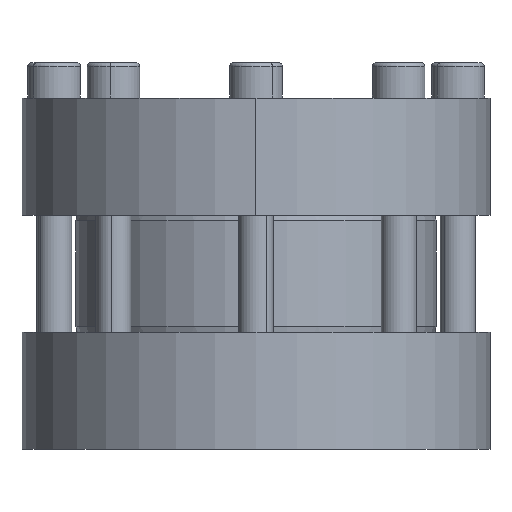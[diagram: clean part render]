
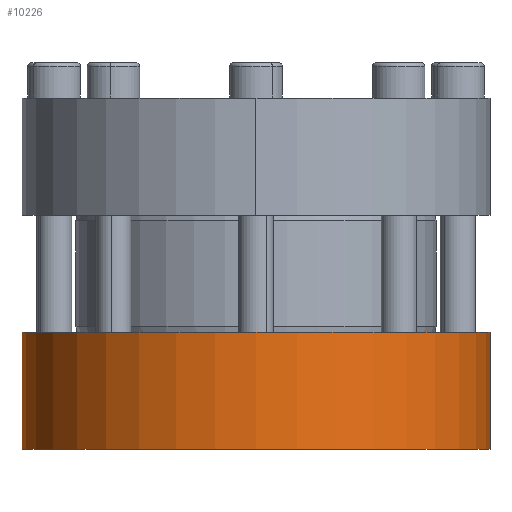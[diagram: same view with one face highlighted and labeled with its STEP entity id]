
A CAD part, front view. The second image highlights one B-rep face of the part: STEP entity #10226.
In plain terms, the highlighted cylindrical face has radius 80 mm (diameter 160 mm), a partial arc.
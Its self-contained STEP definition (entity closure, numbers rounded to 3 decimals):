
#540 = CARTESIAN_POINT ( 'NONE',  ( 0., 0., 37.998 ) ) ;
#685 = AXIS2_PLACEMENT_3D ( 'NONE', #1084, #7491, #1989 ) ;
#701 = EDGE_CURVE ( 'NONE', #9383, #7792, #3120, .T. ) ;
#809 = CYLINDRICAL_SURFACE ( 'NONE', #1216, 80. ) ;
#1084 = CARTESIAN_POINT ( 'NONE',  ( 0., 0., -2.002 ) ) ;
#1216 = AXIS2_PLACEMENT_3D ( 'NONE', #3087, #4916, #9578 ) ;
#1459 = DIRECTION ( 'NONE',  ( 1., 0., 0. ) ) ;
#1989 = DIRECTION ( 'NONE',  ( 1., 0., 0. ) ) ;
#2095 = LINE ( 'NONE', #7934, #6992 ) ;
#2154 = AXIS2_PLACEMENT_3D ( 'NONE', #540, #6945, #1459 ) ;
#2437 = DIRECTION ( 'NONE',  ( 0., 0., -1. ) ) ;
#2982 = EDGE_LOOP ( 'NONE', ( #9256, #11071, #3917, #11408 ) ) ;
#3087 = CARTESIAN_POINT ( 'NONE',  ( 0., 0., 37.998 ) ) ;
#3120 = LINE ( 'NONE', #9819, #9901 ) ;
#3196 = VERTEX_POINT ( 'NONE', #11033 ) ;
#3675 = EDGE_CURVE ( 'NONE', #9685, #3196, #2095, .T. ) ;
#3917 = ORIENTED_EDGE ( 'NONE', *, *, #3675, .T. ) ;
#4066 = FACE_OUTER_BOUND ( 'NONE', #2982, .T. ) ;
#4644 = CIRCLE ( 'NONE', #685, 80. ) ;
#4916 = DIRECTION ( 'NONE',  ( 0., 0., -1. ) ) ;
#5438 = EDGE_CURVE ( 'NONE', #3196, #7792, #4644, .T. ) ;
#5980 = CARTESIAN_POINT ( 'NONE',  ( 80., 0., 37.998 ) ) ;
#6945 = DIRECTION ( 'NONE',  ( 0., 0., 1. ) ) ;
#6992 = VECTOR ( 'NONE', #2437, 1000. ) ;
#7491 = DIRECTION ( 'NONE',  ( 0., 0., 1. ) ) ;
#7792 = VERTEX_POINT ( 'NONE', #11295 ) ;
#7934 = CARTESIAN_POINT ( 'NONE',  ( -80., 0., 37.998 ) ) ;
#8895 = DIRECTION ( 'NONE',  ( 0., 0., -1. ) ) ;
#9256 = ORIENTED_EDGE ( 'NONE', *, *, #701, .F. ) ;
#9383 = VERTEX_POINT ( 'NONE', #5980 ) ;
#9578 = DIRECTION ( 'NONE',  ( -1., 0., 0. ) ) ;
#9685 = VERTEX_POINT ( 'NONE', #11882 ) ;
#9819 = CARTESIAN_POINT ( 'NONE',  ( 80., 0., 37.998 ) ) ;
#9901 = VECTOR ( 'NONE', #8895, 1000. ) ;
#10101 = CIRCLE ( 'NONE', #2154, 80. ) ;
#10226 = ADVANCED_FACE ( 'NONE', ( #4066 ), #809, .T. ) ;
#10885 = EDGE_CURVE ( 'NONE', #9685, #9383, #10101, .T. ) ;
#11033 = CARTESIAN_POINT ( 'NONE',  ( -80., 0., -2.002 ) ) ;
#11071 = ORIENTED_EDGE ( 'NONE', *, *, #10885, .F. ) ;
#11295 = CARTESIAN_POINT ( 'NONE',  ( 80., 0., -2.002 ) ) ;
#11408 = ORIENTED_EDGE ( 'NONE', *, *, #5438, .T. ) ;
#11882 = CARTESIAN_POINT ( 'NONE',  ( -80., 0., 37.998 ) ) ;
